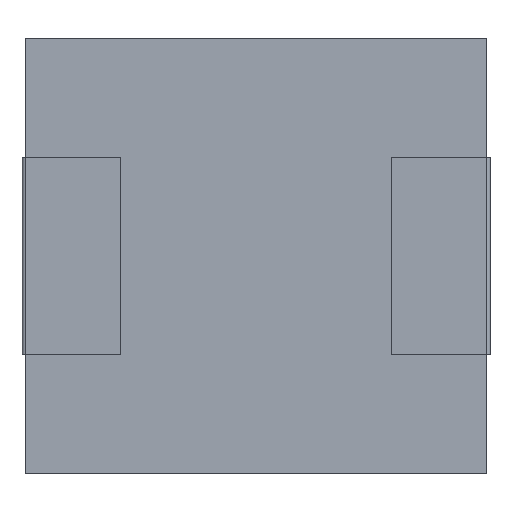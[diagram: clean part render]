
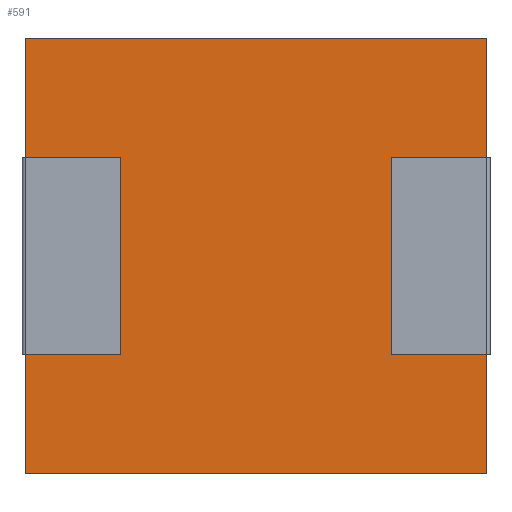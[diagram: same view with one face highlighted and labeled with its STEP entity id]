
A CAD part, front view. The second image highlights one B-rep face of the part: STEP entity #591.
In plain terms, the highlighted planar face has unit normal (0, -1, 0).
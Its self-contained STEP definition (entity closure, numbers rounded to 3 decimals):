
#49 = CARTESIAN_POINT ( 'NONE',  ( 3.5, 0.05, -3.3 ) ) ;
#54 = CARTESIAN_POINT ( 'NONE',  ( 3.5, 0.05, 3.3 ) ) ;
#65 = VECTOR ( 'NONE', #121, 1000. ) ;
#94 = DIRECTION ( 'NONE',  ( 1., 0., 0. ) ) ;
#103 = EDGE_CURVE ( 'NONE', #159, #360, #721, .T. ) ;
#121 = DIRECTION ( 'NONE',  ( 0., 0., 1. ) ) ;
#140 = LINE ( 'NONE', #54, #518 ) ;
#145 = EDGE_CURVE ( 'NONE', #568, #268, #599, .T. ) ;
#159 = VERTEX_POINT ( 'NONE', #519 ) ;
#162 = DIRECTION ( 'NONE',  ( -1., 0., 0. ) ) ;
#201 = CARTESIAN_POINT ( 'NONE',  ( 3.5, 0.05, 3.3 ) ) ;
#243 = CARTESIAN_POINT ( 'NONE',  ( 3.5, 0.05, -3.3 ) ) ;
#268 = VERTEX_POINT ( 'NONE', #362 ) ;
#313 = ORIENTED_EDGE ( 'NONE', *, *, #103, .F. ) ;
#317 = FACE_OUTER_BOUND ( 'NONE', #440, .T. ) ;
#329 = ORIENTED_EDGE ( 'NONE', *, *, #145, .F. ) ;
#341 = CARTESIAN_POINT ( 'NONE',  ( -3.5, 0.05, 3.3 ) ) ;
#359 = AXIS2_PLACEMENT_3D ( 'NONE', #680, #501, #162 ) ;
#360 = VERTEX_POINT ( 'NONE', #435 ) ;
#362 = CARTESIAN_POINT ( 'NONE',  ( -3.5, 0.05, -3.3 ) ) ;
#400 = DIRECTION ( 'NONE',  ( -1., 0., 0. ) ) ;
#435 = CARTESIAN_POINT ( 'NONE',  ( 3.5, 0.05, 3.3 ) ) ;
#439 = DIRECTION ( 'NONE',  ( 0., 0., -1. ) ) ;
#440 = EDGE_LOOP ( 'NONE', ( #618, #329, #720, #313 ) ) ;
#477 = LINE ( 'NONE', #341, #65 ) ;
#490 = EDGE_CURVE ( 'NONE', #268, #159, #477, .T. ) ;
#501 = DIRECTION ( 'NONE',  ( 0., 1., 0. ) ) ;
#518 = VECTOR ( 'NONE', #439, 1000. ) ;
#519 = CARTESIAN_POINT ( 'NONE',  ( -3.5, 0.05, 3.3 ) ) ;
#561 = VECTOR ( 'NONE', #94, 1000. ) ;
#568 = VERTEX_POINT ( 'NONE', #49 ) ;
#581 = VECTOR ( 'NONE', #400, 1000. ) ;
#582 = EDGE_CURVE ( 'NONE', #360, #568, #140, .T. ) ;
#591 = ADVANCED_FACE ( 'NONE', ( #317 ), #606, .F. ) ;
#599 = LINE ( 'NONE', #243, #581 ) ;
#606 = PLANE ( 'NONE',  #359 ) ;
#618 = ORIENTED_EDGE ( 'NONE', *, *, #490, .F. ) ;
#680 = CARTESIAN_POINT ( 'NONE',  ( 0., 0.05, 0. ) ) ;
#720 = ORIENTED_EDGE ( 'NONE', *, *, #582, .F. ) ;
#721 = LINE ( 'NONE', #201, #561 ) ;
